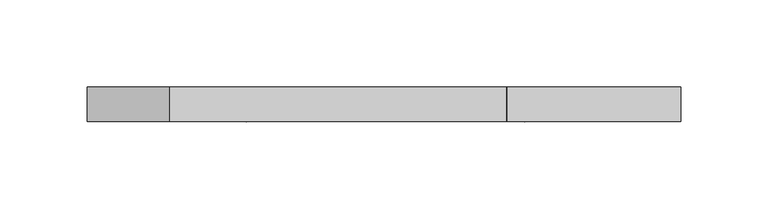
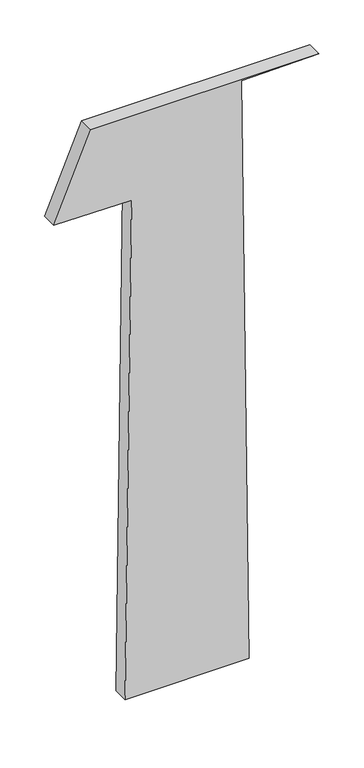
"""IFC4 building model written with IfcOpenShell, lengths in millimetres: plate geometry, 空系统嵌板 : 空."""

from ifc_helpers import new_model, si_unit, frame, origin, place, context, project, spatial, polyline, outline, extrude, source, transform, mapped, element, save


def plate_aaafe28a(model_context):
    return source(origin(), model_context, "Body", "SweptSolid", [
        extrude(outline(polyline([(0.0, -79.1713582), (0.0, 80.8171681), (788.7545724, 70.6262439), (790.0464918, 170.6178983), (789.5340667, -123.1145085), (676.6110559, -170.6178983), (675.3458121, -70.6259028), (0.0, -79.1713582)])), frame((0.0, -10.0, 0.0), z_axis=(0.0, 1.0, 0.0), x_axis=(0.0, 0.0, 1.0)), (0.0, 0.0, 1.0), 20.0),
    ])


if __name__ == "__main__":
    model = new_model("IFC4")
    model_context = context("Model", 3, world=origin())
    ifc_project = project(units=[si_unit("LENGTHUNIT", "METRE", prefix="MILLI")], contexts=[model_context])
    site = spatial("IfcSite", under=ifc_project)
    building = spatial("IfcBuilding", under=site)
    placement = place(None, origin())
    plate_shape = plate_aaafe28a(model_context)
    element("IfcPlate", 1, ObjectType="空系统嵌板 : 空", at=placement, inside=building, context=model_context, shape_type="MappedRepresentation", body=[
        mapped(plate_shape, transform((0.0, 0.0, 0.0), x_axis=(1.0, 0.0, 0.0), y_axis=(0.0, 1.0, 0.0), z_axis=(0.0, 0.0, 1.0))),
    ])
    save(model, "model.ifc")
